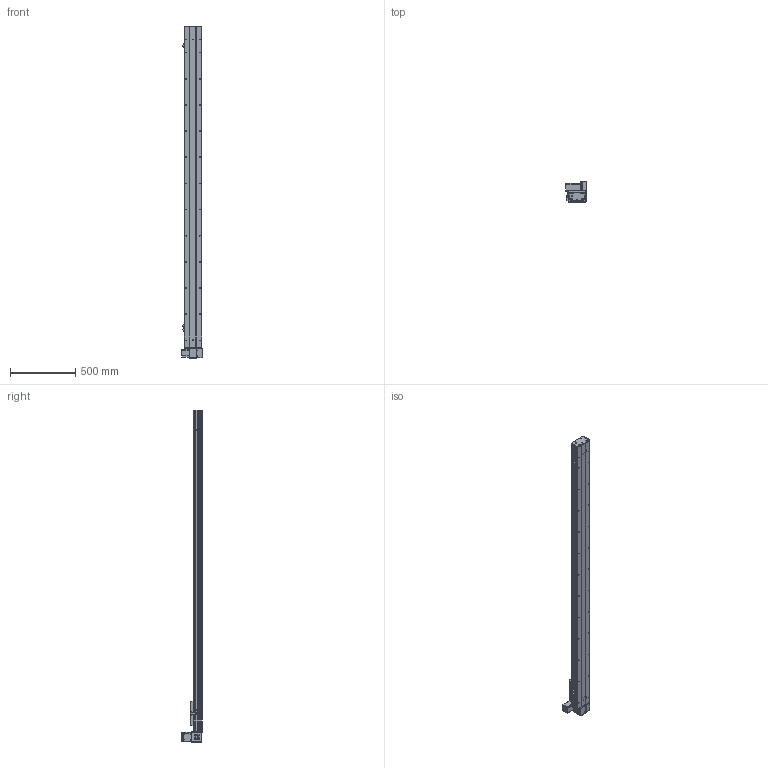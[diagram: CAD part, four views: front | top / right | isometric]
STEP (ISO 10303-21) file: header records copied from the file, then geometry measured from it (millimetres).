
FILE_DESCRIPTION (( 'STEP AP203' ), '1' );
FILE_NAME ('Y135CB-D90-S2150-UL-P400W.STEP', '2020-02-18T07:54:41', ( '微软用户' ), ( '微软中国' ), 'SwSTEP 2.0', 'SolidWorks 2017', '' );
FILE_SCHEMA (( 'CONFIG_CONTROL_DESIGN' ));
Length unit declared in the file: millimetre
Products named in the file (18): 35CB---喘謫眊楊擘啣; Y135C-陔俋离換覜結え-; 0B-埴倛裔啣; 5C--俋欶; 0B-源倛裔啣; C-雄赽釱--; 0B-萇儂楊擘啣; Y10B-耜蚾蟀諉啣----; san松下电机400不带刹车----; 00B-俋欶BM--; 5CB --掛极耜裔啣-; Y10B--々湍喘謫眊--666; C-詩湍揤踡え-陔; Y135CB-耜裔; Y135CB-D90-S2150-UL-P400W; 135CB--詩湍-CE; 135CB---遴掛极.-; Y100-135俋离換覜ん--
Assembly tree (21 placements, depth 2):
  Y135CB-D90-S2150-UL-P400W
    Y135CB-耜裔
    135CB---遴掛极.-
    35CB---喘謫眊楊擘啣
    0B-埴倛裔啣
    0B-源倛裔啣
    0B-萇儂楊擘啣
    san松下电机400不带刹车----
    5CB --掛极耜裔啣-  x2
    C-詩湍揤踡え-陔  x2
    135CB--詩湍-CE
    Y100-135俋离換覜ん--  x3
    Y135C-陔俋离換覜結え-
    5C--俋欶
    C-雄赽釱--
    Y10B-耜蚾蟀諉啣----
    00B-俋欶BM--
    Y10B--々湍喘謫眊--666
Bounding box: 157 x 158.7 x 2538 mm (x, y, z)
Volume: 7372843.7 mm3; surface area: 2915146.5 mm2
Topology: 21 solids, 21 shells, 969 faces, 2635 edges, 1746 vertices
Faces by surface type: cylinder 497, plane 456, cone 16
Entity records: 30561 total; most frequent: DIRECTION 5079, CARTESIAN_POINT 5076, ORIENTED_EDGE 4746, EDGE_CURVE 2373, AXIS2_PLACEMENT_3D 1861, VERTEX_POINT 1574, VECTOR 1357, LINE 1357
